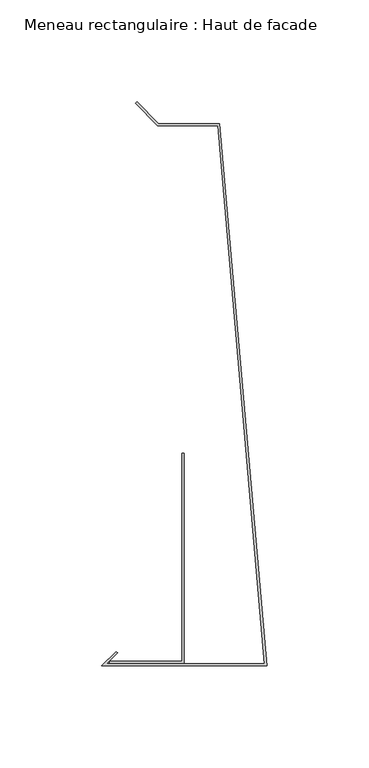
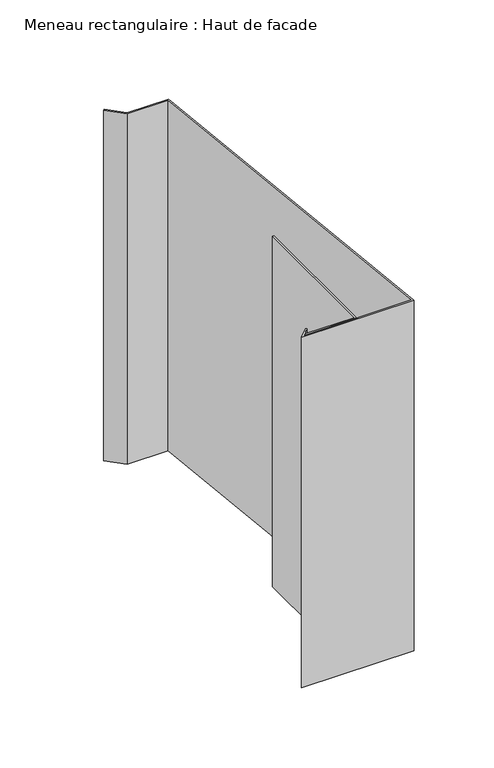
"""IFC4 building model written with IfcOpenShell, lengths in millimetres: member geometry, Meneau rectangulaire : Haut de facade."""

from ifc_helpers import new_model, si_unit, frame, origin, place, context, project, spatial, polyline, outline, extrude, source, transform, mapped, element, save


def meneau_rectangulaire_haut_de_facade_76262e20(model_context):
    return source(origin(), model_context, "Body", "SweptSolid", [
        extrude(outline(polyline([(-24.0647895, 160.703755), (-53.5626719, 160.703755), (-64.4621669, 171.6032499), (-63.7550601, 172.3103567), (-53.1484584, 161.703755), (-23.1484584, 161.703755), (0.0, -104.2), (-81.0, -104.2), (-73.9289322, -97.1289322), (-73.2218254, -97.836039), (-78.5857864, -103.2), (-1.0913085, -103.2), (-24.0647895, 160.703755)])), frame((0.0, 0.0, -267.0), z_axis=(0.0, 0.0, 1.0), x_axis=(1.0, 0.0, 0.0)), (0.0, 0.0, 1.0), 267.0),
        extrude(outline(polyline([(-40.5477541, -102.9846816), (-77.0752814, -102.9846816), (-77.0752814, -101.9846816), (-41.5477541, -101.9846816), (-41.5477541, -0.0384227), (-40.5477541, -0.0384227), (-40.5477541, -102.9846816)])), frame((0.0, 0.0, -267.0), z_axis=(0.0, 0.0, 1.0), x_axis=(1.0, 0.0, 0.0)), (0.0, 0.0, 1.0), 267.0),
    ])


if __name__ == "__main__":
    model = new_model("IFC4")
    model_context = context("Model", 3, world=origin())
    ifc_project = project(units=[si_unit("LENGTHUNIT", "METRE", prefix="MILLI")], contexts=[model_context])
    site = spatial("IfcSite", under=ifc_project)
    building = spatial("IfcBuilding", under=site)
    placement = place(None, origin())
    meneau_rectangulaire_haut_de_facade_shape = meneau_rectangulaire_haut_de_facade_76262e20(model_context)
    element("IfcMember", 1, ObjectType="Meneau rectangulaire : Haut de facade", at=placement, inside=building, context=model_context, shape_type="MappedRepresentation", body=[
        mapped(meneau_rectangulaire_haut_de_facade_shape, transform((0.0, 0.0, 0.0), x_axis=(1.0, 0.0, 0.0), y_axis=(0.0, 1.0, 0.0), z_axis=(0.0, 0.0, 1.0))),
    ])
    save(model, "model.ifc")
